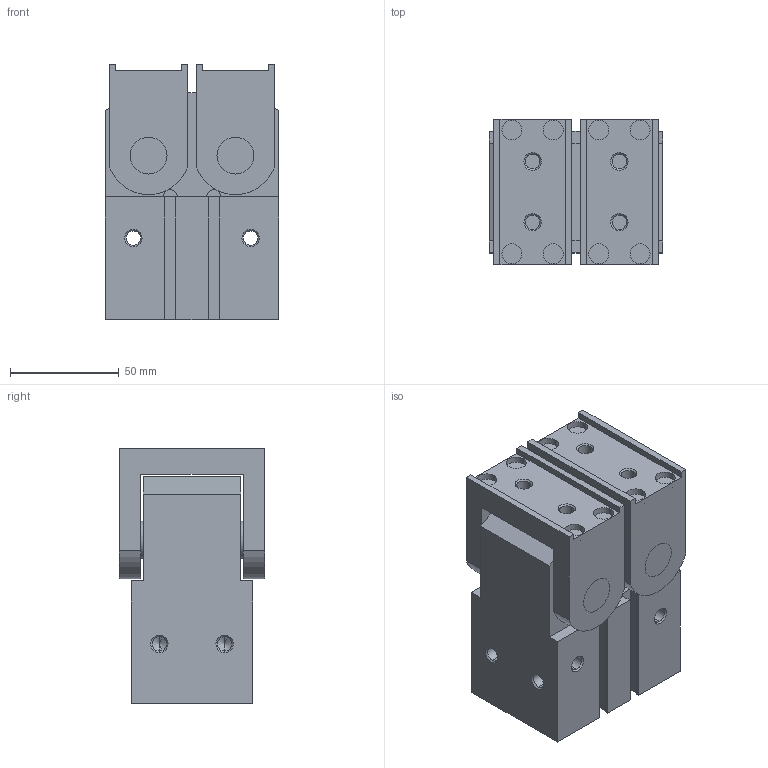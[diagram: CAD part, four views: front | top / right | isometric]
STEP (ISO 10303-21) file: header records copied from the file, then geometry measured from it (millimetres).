
FILE_DESCRIPTION (( 'STEP AP203' ), '1' );
FILE_NAME ('CHW2-40D.STEP', '2020-04-03T10:15:54', ( '' ), ( '' ), 'SwSTEP 2.0', 'SolidWorks 2019', '' );
FILE_SCHEMA (( 'CONFIG_CONTROL_DESIGN' ));
Length unit declared in the file: millimetre
Products named in the file (1): CHW2-40D
Bounding box: 80 x 67 x 117.5 mm (x, y, z)
Volume: 506823.2 mm3; surface area: 78019.4 mm2
Topology: 3 solids, 3 shells, 225 faces, 542 edges, 334 vertices
Faces by surface type: plane 97, cylinder 80, cone 48
Entity records: 6549 total; most frequent: DIRECTION 1178, CARTESIAN_POINT 1090, ORIENTED_EDGE 1060, EDGE_CURVE 530, AXIS2_PLACEMENT_3D 422, LINE 334, VERTEX_POINT 334, VECTOR 334
